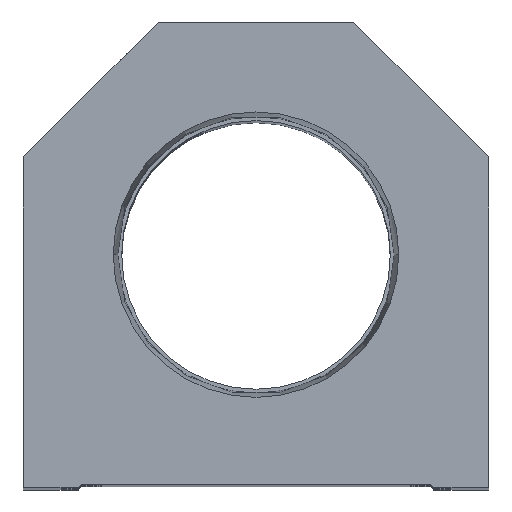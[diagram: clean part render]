
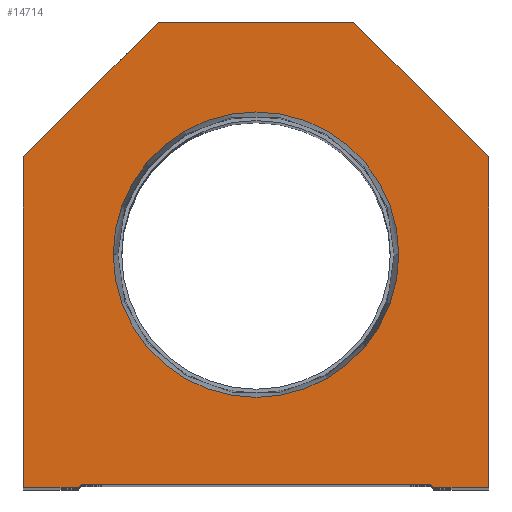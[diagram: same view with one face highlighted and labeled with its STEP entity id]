
A CAD part, top view. The second image highlights one B-rep face of the part: STEP entity #14714.
In plain terms, the highlighted planar face has unit normal (0, 0, 1).
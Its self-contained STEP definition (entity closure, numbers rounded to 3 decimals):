
#25 = VECTOR ( 'NONE', #3991, 1000. ) ;
#252 = LINE ( 'NONE', #7299, #16668 ) ;
#275 = AXIS2_PLACEMENT_3D ( 'NONE', #5868, #637, #16886 ) ;
#551 = CARTESIAN_POINT ( 'NONE',  ( -28.6, 0., 0. ) ) ;
#637 = DIRECTION ( 'NONE',  ( 0., 0., 1. ) ) ;
#789 = DIRECTION ( 'NONE',  ( 0.707, -0.707, 0. ) ) ;
#981 = VERTEX_POINT ( 'NONE', #9390 ) ;
#1086 = CARTESIAN_POINT ( 'NONE',  ( 16., 76.2, 0. ) ) ;
#1480 = LINE ( 'NONE', #15317, #15872 ) ;
#1802 = ORIENTED_EDGE ( 'NONE', *, *, #13246, .F. ) ;
#1864 = EDGE_CURVE ( 'NONE', #16479, #981, #3471, .T. ) ;
#1911 = VERTEX_POINT ( 'NONE', #7753 ) ;
#1926 = CARTESIAN_POINT ( 'NONE',  ( -23.374, 38.1, 0. ) ) ;
#2031 = VECTOR ( 'NONE', #11897, 1000. ) ;
#2619 = DIRECTION ( 'NONE',  ( 1., 0., 0. ) ) ;
#2721 = VERTEX_POINT ( 'NONE', #11720 ) ;
#2726 = EDGE_CURVE ( 'NONE', #15082, #6782, #5056, .T. ) ;
#3172 = VECTOR ( 'NONE', #6932, 1000. ) ;
#3471 = LINE ( 'NONE', #551, #16292 ) ;
#3673 = CARTESIAN_POINT ( 'NONE',  ( -28.6, 0.5, 0. ) ) ;
#3676 = ORIENTED_EDGE ( 'NONE', *, *, #15609, .T. ) ;
#3991 = DIRECTION ( 'NONE',  ( -1., 0., 0. ) ) ;
#4060 = CARTESIAN_POINT ( 'NONE',  ( -16., 76.2, 0. ) ) ;
#4282 = CIRCLE ( 'NONE', #14059, 23.374 ) ;
#4483 = CARTESIAN_POINT ( 'NONE',  ( 29.1, 0., 0. ) ) ;
#4621 = PLANE ( 'NONE',  #275 ) ;
#4772 = CARTESIAN_POINT ( 'NONE',  ( 14.55, 14.55, 0. ) ) ;
#4790 = CARTESIAN_POINT ( 'NONE',  ( 28.6, 0.5, 0. ) ) ;
#4801 = LINE ( 'NONE', #9949, #16790 ) ;
#4892 = EDGE_CURVE ( 'NONE', #1911, #16543, #5314, .T. ) ;
#4976 = CARTESIAN_POINT ( 'NONE',  ( 0., 38.1, 0. ) ) ;
#5056 = LINE ( 'NONE', #10541, #2031 ) ;
#5059 = DIRECTION ( 'NONE',  ( 1., 0., 0. ) ) ;
#5125 = ORIENTED_EDGE ( 'NONE', *, *, #2726, .T. ) ;
#5138 = CARTESIAN_POINT ( 'NONE',  ( -38.1, 54.1, 0. ) ) ;
#5314 = LINE ( 'NONE', #9535, #3172 ) ;
#5868 = CARTESIAN_POINT ( 'NONE',  ( 0., 0., 0. ) ) ;
#6722 = VECTOR ( 'NONE', #789, 1000. ) ;
#6782 = VERTEX_POINT ( 'NONE', #4790 ) ;
#6862 = VERTEX_POINT ( 'NONE', #5138 ) ;
#6932 = DIRECTION ( 'NONE',  ( 0., 1., 0. ) ) ;
#7299 = CARTESIAN_POINT ( 'NONE',  ( -14.55, 14.55, 0. ) ) ;
#7395 = ORIENTED_EDGE ( 'NONE', *, *, #10310, .T. ) ;
#7497 = CIRCLE ( 'NONE', #11234, 23.374 ) ;
#7650 = LINE ( 'NONE', #4772, #6722 ) ;
#7665 = DIRECTION ( 'NONE',  ( -0.707, 0.707, 0. ) ) ;
#7679 = VERTEX_POINT ( 'NONE', #4060 ) ;
#7747 = EDGE_CURVE ( 'NONE', #13152, #1911, #15092, .T. ) ;
#7753 = CARTESIAN_POINT ( 'NONE',  ( 38.1, 0., 0. ) ) ;
#7925 = VERTEX_POINT ( 'NONE', #13360 ) ;
#7988 = ORIENTED_EDGE ( 'NONE', *, *, #16256, .F. ) ;
#8108 = VECTOR ( 'NONE', #2619, 1000. ) ;
#8222 = EDGE_CURVE ( 'NONE', #6862, #16479, #4801, .T. ) ;
#8441 = ORIENTED_EDGE ( 'NONE', *, *, #9203, .T. ) ;
#8932 = DIRECTION ( 'NONE',  ( 1., 0., 0. ) ) ;
#9187 = DIRECTION ( 'NONE',  ( 0., 0., 1. ) ) ;
#9203 = EDGE_CURVE ( 'NONE', #7679, #6862, #1480, .T. ) ;
#9390 = CARTESIAN_POINT ( 'NONE',  ( -29.1, 0., 0. ) ) ;
#9535 = CARTESIAN_POINT ( 'NONE',  ( 38.1, 0., 0. ) ) ;
#9949 = CARTESIAN_POINT ( 'NONE',  ( -38.1, 0., 0. ) ) ;
#10186 = ORIENTED_EDGE ( 'NONE', *, *, #8222, .T. ) ;
#10310 = EDGE_CURVE ( 'NONE', #6782, #13152, #7650, .T. ) ;
#10469 = DIRECTION ( 'NONE',  ( 1., 0., 0. ) ) ;
#10541 = CARTESIAN_POINT ( 'NONE',  ( -28.6, 0.5, 0. ) ) ;
#10638 = VECTOR ( 'NONE', #7665, 1000. ) ;
#11052 = CARTESIAN_POINT ( 'NONE',  ( 28.6, 0., 0. ) ) ;
#11234 = AXIS2_PLACEMENT_3D ( 'NONE', #4976, #9187, #5059 ) ;
#11332 = EDGE_LOOP ( 'NONE', ( #1802, #7988 ) ) ;
#11720 = CARTESIAN_POINT ( 'NONE',  ( 16., 76.2, 0. ) ) ;
#11792 = ORIENTED_EDGE ( 'NONE', *, *, #7747, .T. ) ;
#11893 = LINE ( 'NONE', #1086, #25 ) ;
#11897 = DIRECTION ( 'NONE',  ( 1., 0., 0. ) ) ;
#12257 = ORIENTED_EDGE ( 'NONE', *, *, #4892, .T. ) ;
#12815 = DIRECTION ( 'NONE',  ( -0.707, -0.707, 0. ) ) ;
#12897 = FACE_OUTER_BOUND ( 'NONE', #15600, .T. ) ;
#13130 = ORIENTED_EDGE ( 'NONE', *, *, #13934, .T. ) ;
#13152 = VERTEX_POINT ( 'NONE', #4483 ) ;
#13236 = CARTESIAN_POINT ( 'NONE',  ( 38.1, 54.1, 0. ) ) ;
#13241 = CARTESIAN_POINT ( 'NONE',  ( 38.1, 54.1, 0. ) ) ;
#13246 = EDGE_CURVE ( 'NONE', #7925, #14751, #4282, .T. ) ;
#13343 = ORIENTED_EDGE ( 'NONE', *, *, #16103, .T. ) ;
#13360 = CARTESIAN_POINT ( 'NONE',  ( 23.374, 38.1, 0. ) ) ;
#13879 = DIRECTION ( 'NONE',  ( 0.707, 0.707, 0. ) ) ;
#13934 = EDGE_CURVE ( 'NONE', #981, #15082, #252, .T. ) ;
#14059 = AXIS2_PLACEMENT_3D ( 'NONE', #17337, #15874, #10469 ) ;
#14185 = DIRECTION ( 'NONE',  ( 0., -1., 0. ) ) ;
#14596 = LINE ( 'NONE', #13241, #10638 ) ;
#14714 = ADVANCED_FACE ( 'NONE', ( #16963, #12897 ), #4621, .T. ) ;
#14751 = VERTEX_POINT ( 'NONE', #1926 ) ;
#15082 = VERTEX_POINT ( 'NONE', #3673 ) ;
#15092 = LINE ( 'NONE', #11052, #8108 ) ;
#15317 = CARTESIAN_POINT ( 'NONE',  ( -38.1, 54.1, 0. ) ) ;
#15578 = CARTESIAN_POINT ( 'NONE',  ( -38.1, 0., 0. ) ) ;
#15600 = EDGE_LOOP ( 'NONE', ( #15721, #13130, #5125, #7395, #11792, #12257, #13343, #3676, #8441, #10186 ) ) ;
#15609 = EDGE_CURVE ( 'NONE', #2721, #7679, #11893, .T. ) ;
#15721 = ORIENTED_EDGE ( 'NONE', *, *, #1864, .T. ) ;
#15872 = VECTOR ( 'NONE', #12815, 1000. ) ;
#15874 = DIRECTION ( 'NONE',  ( 0., 0., 1. ) ) ;
#16103 = EDGE_CURVE ( 'NONE', #16543, #2721, #14596, .T. ) ;
#16256 = EDGE_CURVE ( 'NONE', #14751, #7925, #7497, .T. ) ;
#16292 = VECTOR ( 'NONE', #8932, 1000. ) ;
#16479 = VERTEX_POINT ( 'NONE', #15578 ) ;
#16543 = VERTEX_POINT ( 'NONE', #13236 ) ;
#16668 = VECTOR ( 'NONE', #13879, 1000. ) ;
#16790 = VECTOR ( 'NONE', #14185, 1000. ) ;
#16886 = DIRECTION ( 'NONE',  ( 1., 0., 0. ) ) ;
#16963 = FACE_BOUND ( 'NONE', #11332, .T. ) ;
#17337 = CARTESIAN_POINT ( 'NONE',  ( 0., 38.1, 0. ) ) ;
